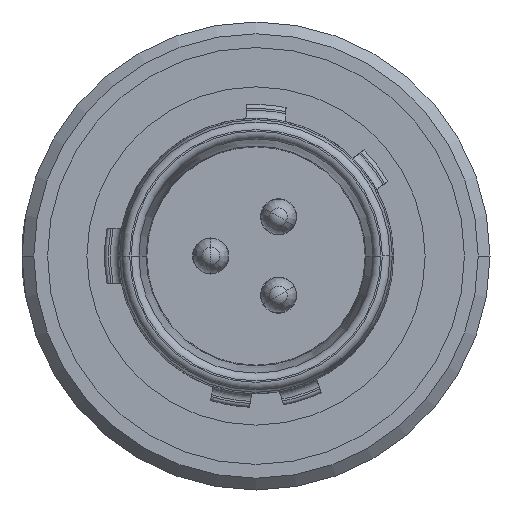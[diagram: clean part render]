
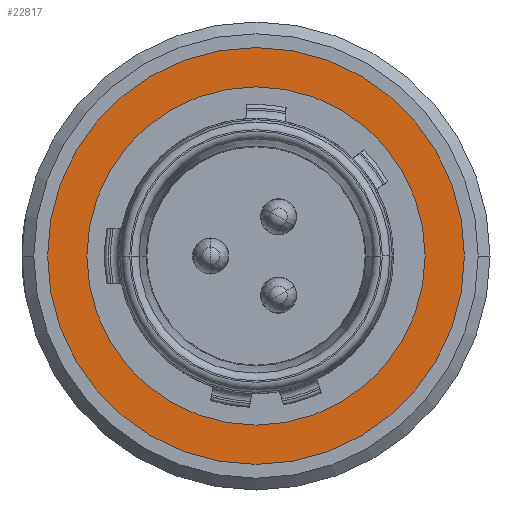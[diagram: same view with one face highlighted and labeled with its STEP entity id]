
A CAD part, left-side view. The second image highlights one B-rep face of the part: STEP entity #22817.
In plain terms, the highlighted planar face has unit normal (-1, 0, 0).
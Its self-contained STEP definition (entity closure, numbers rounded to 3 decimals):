
#8912=CARTESIAN_POINT('',(-7.501,0.,0.));
#8913=DIRECTION('',(1.,0.,0.));
#8914=DIRECTION('',(0.,-1.,0.));
#8915=AXIS2_PLACEMENT_3D('',#8912,#8913,#8914);
#8926=CARTESIAN_POINT('',(-7.501,0.,0.));
#8927=DIRECTION('',(-1.,0.,0.));
#8928=DIRECTION('',(0.,-1.,0.));
#8929=AXIS2_PLACEMENT_3D('',#8926,#8927,#8928);
#8935=CARTESIAN_POINT('',(-7.501,0.,0.));
#8936=DIRECTION('',(1.,0.,0.));
#8937=DIRECTION('',(0.,-1.,0.));
#8938=AXIS2_PLACEMENT_3D('',#8935,#8936,#8937);
#8940=CARTESIAN_POINT('',(-7.501,0.,0.));
#8941=DIRECTION('',(-1.,0.,0.));
#8942=DIRECTION('',(0.,-1.,0.));
#8943=AXIS2_PLACEMENT_3D('',#8940,#8941,#8942);
#12547=CARTESIAN_POINT('',(-7.501,-4.3,0.));
#12548=CARTESIAN_POINT('',(-7.501,4.3,0.));
#12549=VERTEX_POINT('',#12547);
#12550=VERTEX_POINT('',#12548);
#12551=CARTESIAN_POINT('',(-7.501,-5.3,0.));
#12552=CARTESIAN_POINT('',(-7.501,5.3,0.));
#12553=VERTEX_POINT('',#12551);
#12554=VERTEX_POINT('',#12552);
#22802=CARTESIAN_POINT('',(-7.501,0.,0.));
#22803=DIRECTION('',(1.,0.,0.));
#22804=DIRECTION('',(0.,-1.,0.));
#22805=AXIS2_PLACEMENT_3D('',#22802,#22803,#22804);
#22806=PLANE('',#22805);
#22807=ORIENTED_EDGE('',*,*,#22789,.F.);
#22808=ORIENTED_EDGE('',*,*,#22768,.T.);
#22809=EDGE_LOOP('',(#22807,#22808));
#22810=FACE_OUTER_BOUND('',#22809,.F.);
#22812=ORIENTED_EDGE('',*,*,#22811,.F.);
#22814=ORIENTED_EDGE('',*,*,#22813,.T.);
#22815=EDGE_LOOP('',(#22812,#22814));
#22816=FACE_BOUND('',#22815,.F.);
#8916=CIRCLE('',#8915,5.3);
#8930=CIRCLE('',#8929,5.3);
#8939=CIRCLE('',#8938,4.3);
#8944=CIRCLE('',#8943,4.3);
#22768=EDGE_CURVE('',#12553,#12554,#8916,.T.);
#22789=EDGE_CURVE('',#12553,#12554,#8930,.T.);
#22811=EDGE_CURVE('',#12549,#12550,#8939,.T.);
#22813=EDGE_CURVE('',#12549,#12550,#8944,.T.);
#22817=ADVANCED_FACE('',(#22810,#22816),#22806,.F.);
